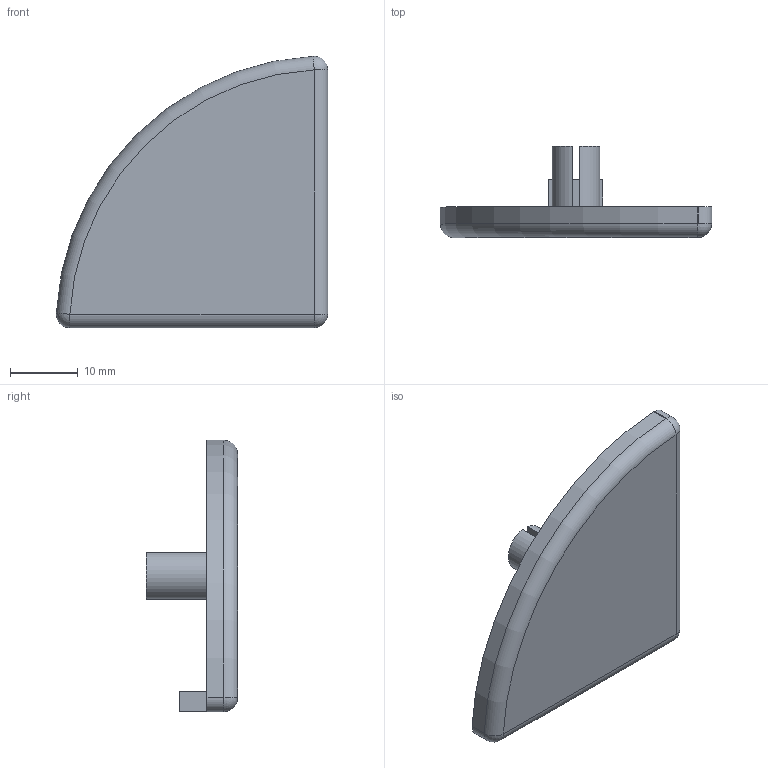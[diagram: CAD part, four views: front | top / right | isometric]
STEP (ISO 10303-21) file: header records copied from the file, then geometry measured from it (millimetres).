
FILE_DESCRIPTION (( 'STEP AP203' ), '1' );
FILE_NAME ('EC40X40CR.STEP', '2018-03-15T12:38:26', ( '' ), ( '' ), 'SwSTEP 2.0', 'SolidWorks 2013', '' );
FILE_SCHEMA (( 'CONFIG_CONTROL_DESIGN' ));
Length unit declared in the file: millimetre
Products named in the file (1): EC40X40CR
Bounding box: 39.94 x 13.4 x 39.95 mm (x, y, z)
Volume: 4912.1 mm3; surface area: 3594.3 mm2
Topology: 1 solids, 1 shells, 34 faces, 84 edges, 51 vertices
Faces by surface type: plane 16, cylinder 12, sphere 3, cone 2, torus 1
Entity records: 1063 total; most frequent: CARTESIAN_POINT 179, DIRECTION 176, ORIENTED_EDGE 162, EDGE_CURVE 81, AXIS2_PLACEMENT_3D 64, VERTEX_POINT 51, LINE 48, VECTOR 48
